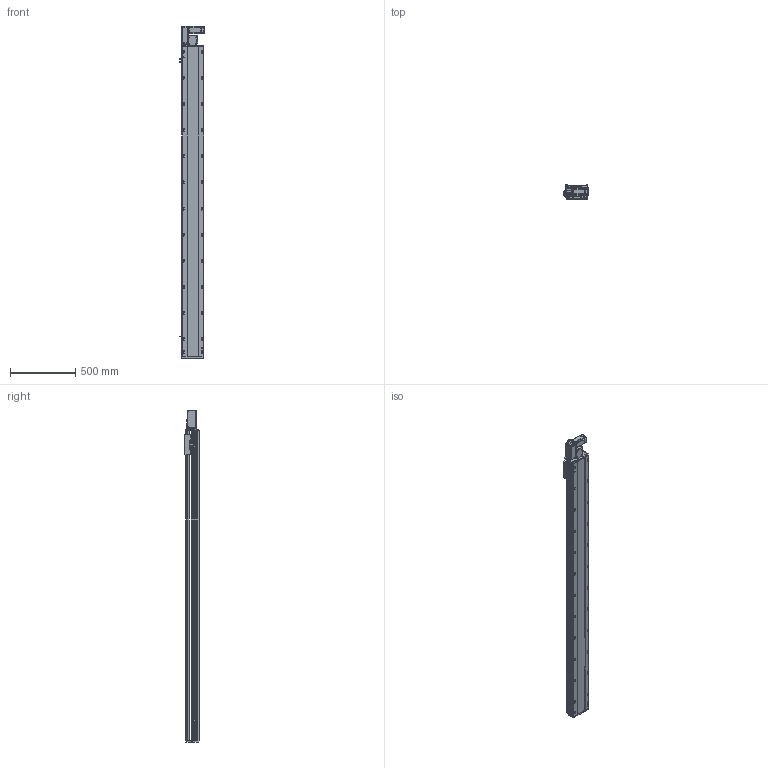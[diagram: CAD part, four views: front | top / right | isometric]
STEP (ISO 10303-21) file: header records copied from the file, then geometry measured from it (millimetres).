
FILE_DESCRIPTION (( 'STEP AP214' ), '1' );
FILE_NAME ('RTB17S-XX-2100-L-M40-C4.STEP', '2025-12-11T05:51:47', ( '' ), ( '' ), 'SwSTEP 2.0', 'SolidWorks 2018', '' );
FILE_SCHEMA (( 'AUTOMOTIVE_DESIGN' ));
Length unit declared in the file: millimetre
Products named in the file (14): RTB17S-L-001侧面板^RTB17S-XX-XX-L-M40-C4（方程式）; RTB17S-L-004丝杆螺母连接座^RTB17S-XX-XX-L-M40-C4（方程式）; RTB17S-L-皮带座装配-400W^RTB17S-XX-XX-L-M40-C4（方程式）; RMP17S-L-014-T20--皮带座^RTB17S-L-皮带座装配-400W_RTB17S-XX-XX-L-M40-C4（方程式）; RTB17S-L-007上盖^RTB17S-XX-XX-L-M40-C4（方程式）; RTB17S-XX-2100-L-M40-C4; RTB14-L-017P^RTB17S-L-皮带座装配-400W_RTB17S-XX-XX-L-M40-C4（方程式）; OMRON EE-SX672 传感器^RTB17S-XX-XX-L-M40-C4（方程式）; RTH13-BL-012感应片外置^RTB17S-XX-XX-L-M40-C4（方程式）; RTB17-R-011底座^RTB17S-XX-XX-L-M40-C4（方程式）; RTB14-L-018P^RTB17S-L-皮带座装配-400W_RTB17S-XX-XX-L-M40-C4（方程式）; RTB14-L-008-M20--电机板^RTB17S-L-皮带座装配-400W_RTB17S-XX-XX-L-M40-C4（方程式）; 400W伺服电机^RTB17S-XX-XX-L-M40-C4（方程式）; RTB14-L-005P--轴承塑胶压盖^RTB17S-L-皮带座装配-400W_RTB17S-XX-XX-L-M40-C4（方程式）
Assembly tree (16 placements, depth 3):
  RTB17S-XX-2100-L-M40-C4
    RTB17-R-011底座^RTB17S-XX-XX-L-M40-C4（方程式）
    RTB17S-L-007上盖^RTB17S-XX-XX-L-M40-C4（方程式）
    OMRON EE-SX672 传感器^RTB17S-XX-XX-L-M40-C4（方程式）  x3
    RTB17S-L-001侧面板^RTB17S-XX-XX-L-M40-C4（方程式）
    400W伺服电机^RTB17S-XX-XX-L-M40-C4（方程式）
    RTB17S-L-004丝杆螺母连接座^RTB17S-XX-XX-L-M40-C4（方程式）
    RTH13-BL-012感应片外置^RTB17S-XX-XX-L-M40-C4（方程式）
    RTB17S-L-皮带座装配-400W^RTB17S-XX-XX-L-M40-C4（方程式）
      RMP17S-L-014-T20--皮带座^RTB17S-L-皮带座装配-400W_RTB17S-XX-XX-L-M40-C4（方程式）
      RTB14-L-005P--轴承塑胶压盖^RTB17S-L-皮带座装配-400W_RTB17S-XX-XX-L-M40-C4（方程式）
      RTB14-L-008-M20--电机板^RTB17S-L-皮带座装配-400W_RTB17S-XX-XX-L-M40-C4（方程式）
      RTB14-L-017P^RTB17S-L-皮带座装配-400W_RTB17S-XX-XX-L-M40-C4（方程式）  x2
      RTB14-L-018P^RTB17S-L-皮带座装配-400W_RTB17S-XX-XX-L-M40-C4（方程式）
Bounding box: 186 x 108 x 2541 mm (x, y, z)
Volume: 21342140 mm3; surface area: 2477184.7 mm2
Topology: 15 solids, 15 shells, 2301 faces, 6411 edges, 4185 vertices
Faces by surface type: plane 1080, cylinder 773, bspline 301, cone 139, torus 8
Entity records: 67241 total; most frequent: CARTESIAN_POINT 19016, ORIENTED_EDGE 9666, DIRECTION 8936, EDGE_CURVE 4833, VERTEX_POINT 3173, AXIS2_PLACEMENT_3D 3103, LINE 2730, VECTOR 2730
